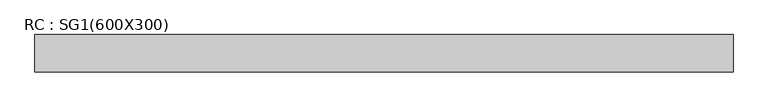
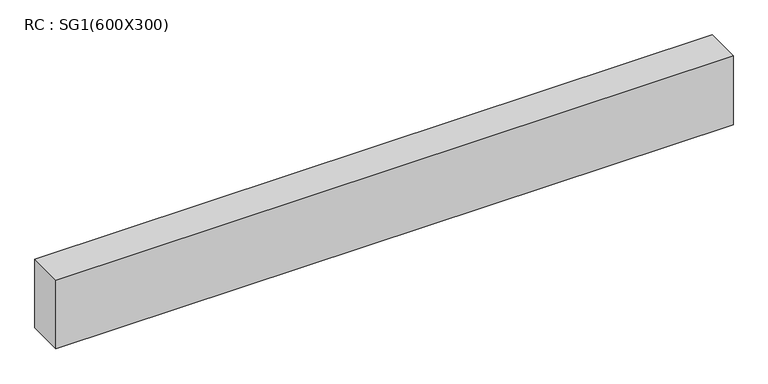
"""IFC4 building model written with IfcOpenShell, lengths in millimetres: beam geometry, RC : SG1(600X300)."""

from ifc_helpers import new_model, si_unit, frame, origin, place, context, project, spatial, polyline, outline, extrude, source, transform, mapped, element, save


def rc_sg1_600x300_3a39d8af(model_context):
    return source(origin(), model_context, "Body", "SweptSolid", [
        extrude(outline(polyline([(2794.9999994, 150.0), (2794.9999994, -150.0), (-2794.9999994, -150.0), (-2794.9999994, 150.0), (2794.9999994, 150.0)])), frame((0.0, 0.0, -300.0), z_axis=(0.0, 0.0, 1.0), x_axis=(1.0, 0.0, 0.0)), (0.0, 0.0, 1.0), 600.0),
    ])


if __name__ == "__main__":
    model = new_model("IFC4")
    model_context = context("Model", 3, world=origin())
    ifc_project = project(units=[si_unit("LENGTHUNIT", "METRE", prefix="MILLI")], contexts=[model_context])
    site = spatial("IfcSite", under=ifc_project)
    building = spatial("IfcBuilding", under=site)
    placement = place(None, origin())
    rc_sg1_600x300_shape = rc_sg1_600x300_3a39d8af(model_context)
    element("IfcBeam", 1, ObjectType="RC : SG1(600X300)", at=placement, inside=building, context=model_context, shape_type="MappedRepresentation", body=[
        mapped(rc_sg1_600x300_shape, transform((0.0, 0.0, 0.0), x_axis=(1.0, 0.0, 0.0), y_axis=(0.0, 1.0, 0.0), z_axis=(0.0, 0.0, 1.0))),
    ])
    save(model, "model.ifc")
